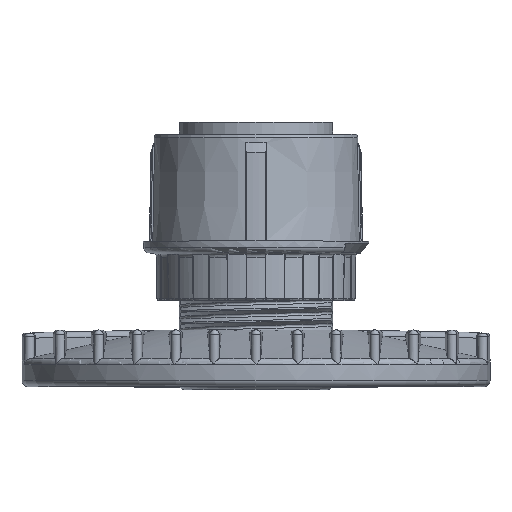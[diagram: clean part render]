
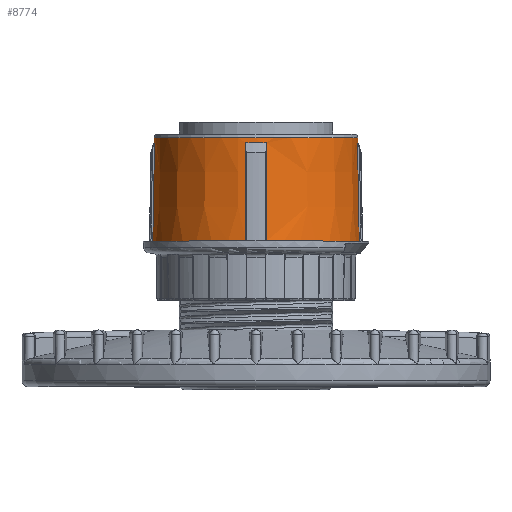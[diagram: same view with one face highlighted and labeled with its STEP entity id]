
A CAD part, top view. The second image highlights one B-rep face of the part: STEP entity #8774.
In plain terms, the highlighted conical face has half-angle 1 degrees and reference radius 17.308 mm.
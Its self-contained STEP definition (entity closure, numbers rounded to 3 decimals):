
#21=CARTESIAN_POINT('',(0.,16.5,0.));
#22=DIRECTION('',(0.,-1.,0.));
#23=DIRECTION('',(0.995,0.,-0.102));
#24=AXIS2_PLACEMENT_3D('',#21,#22,#23);
#3602=CARTESIAN_POINT('',(0.,17.4,0.));
#3603=DIRECTION('',(0.,1.,0.));
#3604=DIRECTION('',(1.,0.,0.));
#3605=AXIS2_PLACEMENT_3D('',#3602,#3603,#3604);
#3616=DIRECTION('',(-0.017,1.,0.));
#3617=VECTOR('',#3616,0.9);
#3618=CARTESIAN_POINT('',(17.172,16.5,0.));
#3619=LINE('',#3618,#3617);
#3620=DIRECTION('',(0.017,1.,0.));
#3621=VECTOR('',#3620,0.9);
#3622=CARTESIAN_POINT('',(-17.172,16.5,0.));
#3623=LINE('',#3622,#3621);
#3624=CARTESIAN_POINT('',(0.,0.,0.));
#3625=DIRECTION('',(0.,1.,0.));
#3626=DIRECTION('',(-0.1,0.,-0.995));
#3627=AXIS2_PLACEMENT_3D('',#3624,#3625,#3626);
#3629=CARTESIAN_POINT('',(0.,0.,0.));
#3630=DIRECTION('',(0.,1.,0.));
#3631=DIRECTION('',(0.995,0.,-0.1));
#3632=AXIS2_PLACEMENT_3D('',#3629,#3630,#3631);
#3638=CARTESIAN_POINT('',(0.,16.5,0.));
#3639=DIRECTION('',(0.,-1.,0.));
#3640=DIRECTION('',(-1.,0.,0.));
#3641=AXIS2_PLACEMENT_3D('',#3638,#3639,#3640);
#3658=CARTESIAN_POINT('',(-17.372,0.,-1.75));
#3659=CARTESIAN_POINT('',(-17.34,1.838,-1.75));
#3660=CARTESIAN_POINT('',(-17.275,5.511,-1.75));
#3661=CARTESIAN_POINT('',(-17.179,11.011,-1.75));
#3662=CARTESIAN_POINT('',(-17.115,14.671,-1.75));
#3663=CARTESIAN_POINT('',(-17.083,16.5,-1.75));
#3759=CARTESIAN_POINT('',(-1.75,16.5,-17.083));
#3760=CARTESIAN_POINT('',(-1.75,14.671,-17.115));
#3761=CARTESIAN_POINT('',(-1.75,11.011,-17.179));
#3762=CARTESIAN_POINT('',(-1.75,5.511,-17.275));
#3763=CARTESIAN_POINT('',(-1.75,1.838,-17.34));
#3764=CARTESIAN_POINT('',(-1.75,0.,-17.372));
#3775=CARTESIAN_POINT('',(0.,16.5,0.));
#3776=DIRECTION('',(0.,-1.,0.));
#3777=DIRECTION('',(-0.102,0.,-0.995));
#3778=AXIS2_PLACEMENT_3D('',#3775,#3776,#3777);
#3790=CARTESIAN_POINT('',(1.75,0.,-17.372));
#3791=CARTESIAN_POINT('',(1.75,1.838,-17.34));
#3792=CARTESIAN_POINT('',(1.75,5.511,-17.275));
#3793=CARTESIAN_POINT('',(1.75,11.011,-17.179));
#3794=CARTESIAN_POINT('',(1.75,14.671,-17.115));
#3795=CARTESIAN_POINT('',(1.75,16.5,-17.083));
#3878=CARTESIAN_POINT('',(17.083,16.5,-1.75));
#3879=CARTESIAN_POINT('',(17.115,14.671,-1.75));
#3880=CARTESIAN_POINT('',(17.179,11.011,-1.75));
#3881=CARTESIAN_POINT('',(17.275,5.511,-1.75));
#3882=CARTESIAN_POINT('',(17.34,1.838,-1.75));
#3883=CARTESIAN_POINT('',(17.372,0.,-1.75));
#4035=CARTESIAN_POINT('',(17.156,17.4,0.));
#4036=CARTESIAN_POINT('',(-17.156,17.4,0.));
#4037=VERTEX_POINT('',#4035);
#4038=VERTEX_POINT('',#4036);
#4046=CARTESIAN_POINT('',(-17.172,16.5,0.));
#4048=VERTEX_POINT('',#4046);
#4050=CARTESIAN_POINT('',(-17.083,16.5,-1.75));
#4051=VERTEX_POINT('',#4050);
#4052=VERTEX_POINT('',#3658);
#4053=CARTESIAN_POINT('',(-1.75,16.5,-17.083));
#4054=CARTESIAN_POINT('',(1.75,16.5,-17.083));
#4055=VERTEX_POINT('',#4053);
#4056=VERTEX_POINT('',#4054);
#4057=VERTEX_POINT('',#3790);
#4058=VERTEX_POINT('',#3764);
#4059=CARTESIAN_POINT('',(17.172,16.5,0.));
#4061=VERTEX_POINT('',#4059);
#4064=CARTESIAN_POINT('',(17.083,16.5,-1.75));
#4065=VERTEX_POINT('',#4064);
#4066=VERTEX_POINT('',#3883);
#8749=CARTESIAN_POINT('',(0.,8.7,0.));
#8750=DIRECTION('',(0.,-1.,0.));
#8751=DIRECTION('',(-1.,0.,0.));
#8752=AXIS2_PLACEMENT_3D('',#8749,#8750,#8751);
#8753=CONICAL_SURFACE('',#8752,17.308,1.);
#8754=ORIENTED_EDGE('',*,*,#4611,.T.);
#8755=ORIENTED_EDGE('',*,*,#4596,.T.);
#8756=ORIENTED_EDGE('',*,*,#8730,.T.);
#8757=ORIENTED_EDGE('',*,*,#4592,.F.);
#8759=ORIENTED_EDGE('',*,*,#8758,.T.);
#8761=ORIENTED_EDGE('',*,*,#8760,.F.);
#8762=ORIENTED_EDGE('',*,*,#4863,.F.);
#8764=ORIENTED_EDGE('',*,*,#8763,.F.);
#8766=ORIENTED_EDGE('',*,*,#8765,.T.);
#8768=ORIENTED_EDGE('',*,*,#8767,.F.);
#8769=ORIENTED_EDGE('',*,*,#4851,.F.);
#8771=ORIENTED_EDGE('',*,*,#8770,.F.);
#8772=EDGE_LOOP('',(#8754,#8755,#8756,#8757,#8759,#8761,#8762,#8764,#8766,#8768,
#8769,#8771));
#8773=FACE_OUTER_BOUND('',#8772,.F.);
#8774=ADVANCED_FACE('',(#8773),#8753,.T.);
#25=CIRCLE('',#24,17.172);
#3606=CIRCLE('',#3605,17.156);
#3628=CIRCLE('',#3627,17.46);
#3633=CIRCLE('',#3632,17.46);
#3642=CIRCLE('',#3641,17.172);
#3664=B_SPLINE_CURVE_WITH_KNOTS('',3,(#3658,#3659,#3660,#3661,#3662,#3663),
.UNSPECIFIED.,.F.,.F.,(4,1,1,4),(0.,0.333,0.667,1.),
.UNSPECIFIED.);
#3765=B_SPLINE_CURVE_WITH_KNOTS('',3,(#3759,#3760,#3761,#3762,#3763,#3764),
.UNSPECIFIED.,.F.,.F.,(4,1,1,4),(0.,0.333,0.667,1.),
.UNSPECIFIED.);
#3779=CIRCLE('',#3778,17.172);
#3796=B_SPLINE_CURVE_WITH_KNOTS('',3,(#3790,#3791,#3792,#3793,#3794,#3795),
.UNSPECIFIED.,.F.,.F.,(4,1,1,4),(0.,0.333,0.667,1.),
.UNSPECIFIED.);
#3884=B_SPLINE_CURVE_WITH_KNOTS('',3,(#3878,#3879,#3880,#3881,#3882,#3883),
.UNSPECIFIED.,.F.,.F.,(4,1,1,4),(0.,0.333,0.667,1.),
.UNSPECIFIED.);
#4592=EDGE_CURVE('',#4048,#4038,#3623,.T.);
#4596=EDGE_CURVE('',#4061,#4037,#3619,.T.);
#4611=EDGE_CURVE('',#4065,#4061,#25,.T.);
#4851=EDGE_CURVE('',#4066,#4057,#3633,.T.);
#4863=EDGE_CURVE('',#4058,#4052,#3628,.T.);
#8730=EDGE_CURVE('',#4037,#4038,#3606,.T.);
#8758=EDGE_CURVE('',#4048,#4051,#3642,.T.);
#8760=EDGE_CURVE('',#4052,#4051,#3664,.T.);
#8763=EDGE_CURVE('',#4055,#4058,#3765,.T.);
#8765=EDGE_CURVE('',#4055,#4056,#3779,.T.);
#8767=EDGE_CURVE('',#4057,#4056,#3796,.T.);
#8770=EDGE_CURVE('',#4065,#4066,#3884,.T.);
